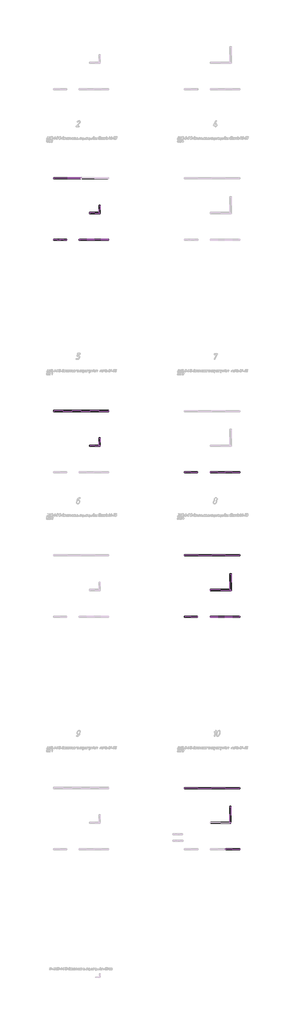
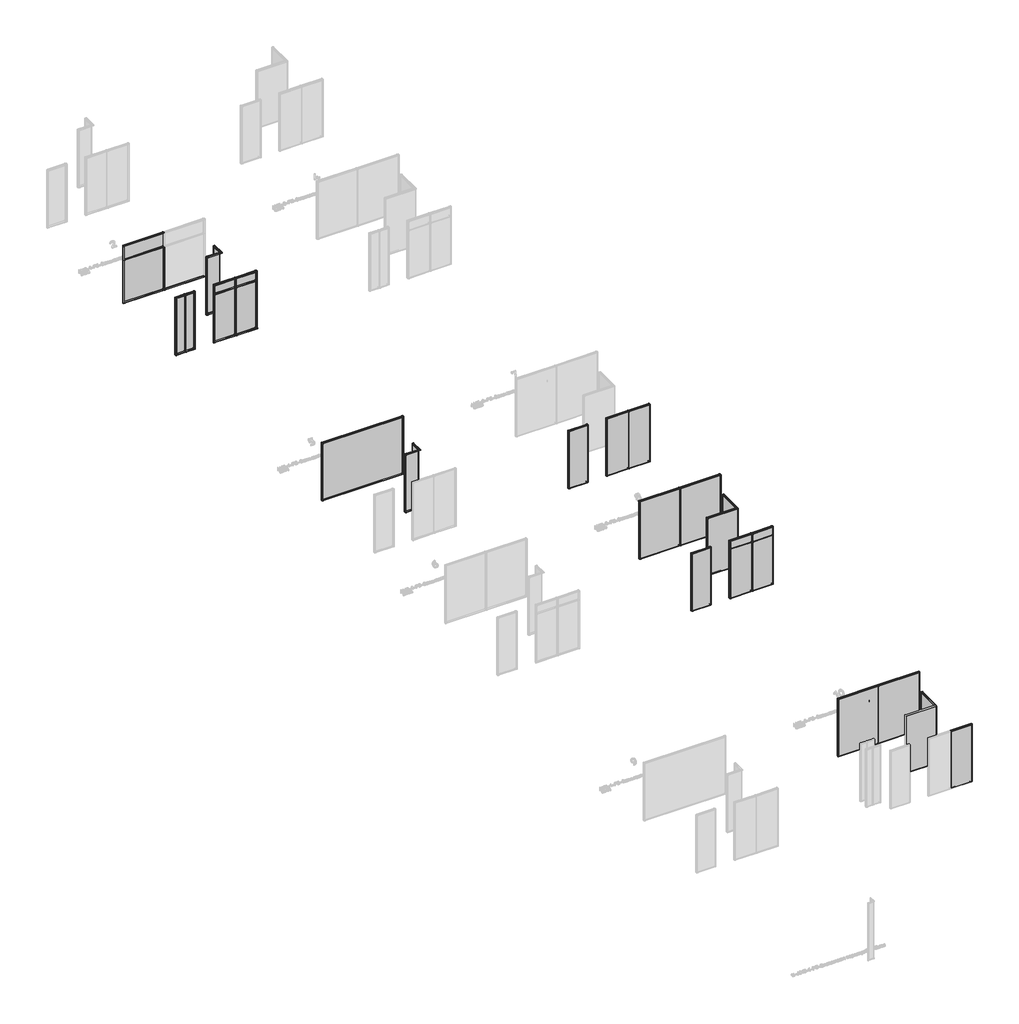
# One storey, part 2 of 22: 97 members, 30 plates.
"""IFC4 building model written with IfcOpenShell, lengths in millimetres."""

from ifc_helpers import new_model, si_unit, origin, place, context, project, spatial, transform, mapped, element, save
from components import member_679ae571, member_112bad6c, member_a0690aec, member_78b921d7, member_cfed3e5b, member_4a05bf8b, member_debc56be, member_fc8631e7, member_214070ad, member_10447d67, member_bc8d14ae, member_71ad35bd, member_cca2f080, member_7c3dce96, member_84f5351a, member_572960a0, member_3521b740, member_f42641c0, member_3baaf4cd, member_0a683327, member_89e9d058, member_d21278bc, member_0cd1de56, member_d9a8b494, member_191df413, member_43a0785c, member_1a34cda2, member_cfd8de3d, member_7b23a373, member_da78ab06, member_1d8b72b8, member_eaf66a81, member_6e2d20ba, member_2fa9917d, member_f6f6942f, member_1e112815, member_e6ef7e3b, member_a27bc3e2, member_4e2aeb8b, member_03ab2221, member_475a050b, member_5ca82919, member_f39f7cea, member_83f4ae74, member_e85f4ef0, member_36051e5c, member_028ab7fa, member_6ae3acd9, member_2d3e5994, member_c077e5c1, member_8e470bcc, member_59e4e7c9, member_af907c4f, member_0f264bdb, member_fc7df160, member_f0baebe7, member_93e2901d, member_6fa34456, member_74cfcd0e, member_9c11876c, member_e38ae89f, member_2893ac2d, member_b31118c8, member_b95fb32e, member_520df2a5, member_f5b8ed6c, member_4ba3030a, member_1ce3db48, member_eacce06f, member_09b85563, member_cacbceeb, member_a0eec1e8, member_eae1733a, member_2709d313, member_c30fd7d8, member_52638710, plate_24773b22, plate_5209fc4b, plate_b4f278bb, plate_426ea1b5, plate_f5c13d01, plate_5d2dc3b9, plate_4fcb0a8f, plate_0fa9f685, plate_47663f49, plate_f9840016, plate_38fda3b0, plate_7385b507, plate_6319510f, plate_275eea80, plate_57babfa3, plate_72be16de, plate_b4419c6d, plate_2100a19b, plate_72723f3e, plate_b37d0d85, plate_1a683a38, plate_d7c0e5d0, plate_e5ce113d, plate_1af2d558, plate_55673059, plate_c23ce983, plate_b7e87d28, plate_96b0c57f, plate_718afa10

model = new_model("IFC4")

# Units and contexts
model_context = context("Model", 3, world=origin())
ifc_project = project(units=[si_unit("LENGTHUNIT", "METRE", prefix="MILLI")], contexts=[model_context])

# Site, building, storey
site = spatial("IfcSite", under=ifc_project)
building = spatial("IfcBuilding", under=site)
storey = spatial("IfcBuildingStorey", under=building, Name="Уровень 1", Elevation=0.0)

# Members
placement = place(None, origin())
member_shape = member_679ae571(model_context)
element("IfcMember", 1, ObjectType="Прямоугольный импост : 1-AMG-1-Профиль 40Х75 Верх П", at=placement, inside=storey, context=model_context, shape_type="MappedRepresentation", body=[
    mapped(member_shape, transform((-32623.5895059, -14405.3753969, 0.0), x_axis=(0.0, 1.0, 0.0), y_axis=(1.0, 0.0, 0.0), z_axis=(0.0, 0.0, -1.0))),
])
member_2_shape = member_112bad6c(model_context)
element("IfcMember", 2, ObjectType="Прямоугольный импост : 1-AMG-1-Профиль 40Х75 Верх П", at=placement, inside=storey, context=model_context, shape_type="MappedRepresentation", body=[
    mapped(member_2_shape, transform((-33303.5895059, -14945.3753969, 0.0), x_axis=(-1.0, 0.0, 0.0), y_axis=(0.0, 1.0, 0.0), z_axis=(0.0, 0.0, -1.0))),
])
member_3_shape = member_a0690aec(model_context)
element("IfcMember", 3, ObjectType="Прямоугольный импост : 1-AMG-1-Профиль 40Х75 Верх П", at=placement, inside=storey, context=model_context, shape_type="MappedRepresentation", body=[
    mapped(member_3_shape, transform((-33262.4744198, -14945.3753969, 2800.0), x_axis=(0.0, 0.0, 1.0), y_axis=(0.0, 1.0, 0.0), z_axis=(-1.0, 0.0, 0.0))),
])
member_4_shape = member_78b921d7(model_context)
element("IfcMember", 4, ObjectType="Прямоугольный импост : 1-AMG-1-Профиль 40Х75 Верх П", at=placement, inside=storey, context=model_context, shape_type="MappedRepresentation", body=[
    mapped(member_4_shape, transform((-32623.5895059, -14446.4904831, 2800.0), x_axis=(0.0, 0.0, 1.0), y_axis=(1.0, 0.0, 0.0), z_axis=(0.0, 1.0, 0.0))),
])
member_5_shape = member_cfed3e5b(model_context)
element("IfcMember", 5, ObjectType="Прямоугольный импост : 1-AMG-1-Профиль 40Х75 Низ Л", at=placement, inside=storey, context=model_context, shape_type="MappedRepresentation", body=[
    mapped(member_5_shape, transform((-32623.5895059, -14945.3753969, 0.0), x_axis=(0.0, 0.0, -1.0), y_axis=(0.0, 1.0, 0.0), z_axis=(1.0, 0.0, 0.0))),
])
member_6_shape = member_4a05bf8b(model_context)
element("IfcMember", 6, ObjectType="Прямоугольный импост : 1-AMG-1-Профиль 40Х75 Низ Л", at=placement, inside=storey, context=model_context, shape_type="MappedRepresentation", body=[
    mapped(member_6_shape, transform((-32623.5895059, -14945.3753969, 0.0), x_axis=(0.0, 0.0, -1.0), y_axis=(1.0, 0.0, 0.0), z_axis=(0.0, -1.0, 0.0))),
])
member_7_shape = member_debc56be(model_context)
element("IfcMember", 7, ObjectType="Прямоугольный импост : 1-AMG-1-Профиль 40Х75 Низ Л", at=placement, inside=storey, context=model_context, shape_type="MappedRepresentation", body=[
    mapped(member_7_shape, transform((-32994.0352132, -16757.9669289, 0.0), x_axis=(0.0, 0.0, -1.0), y_axis=(0.0, -1.0, 0.0), z_axis=(-1.0, 0.0, 0.0))),
])
member_8_shape = member_fc8631e7(model_context)
element("IfcMember", 8, ObjectType="Прямоугольный импост : 1-AMG-1-Профиль 40Х75 Верх П", at=placement, inside=storey, context=model_context, shape_type="MappedRepresentation", body=[
    mapped(member_8_shape, transform((-34859.1896408, -16757.9669289, 41.1), x_axis=(1.0, 0.0, 0.0), y_axis=(0.0, -1.0, 0.0), z_axis=(0.0, 0.0, -1.0))),
])
member_9_shape = member_214070ad(model_context)
element("IfcMember", 9, ObjectType="Прямоугольный импост : 1-AMG-1-Профиль 40Х75 Верх П", at=placement, inside=storey, context=model_context, shape_type="MappedRepresentation", body=[
    mapped(member_9_shape, transform((-33884.1896408, -12595.8466032, 2800.0), x_axis=(0.0, 0.0, 1.0), y_axis=(0.0, -1.0, 0.0), z_axis=(1.0, 0.0, 0.0))),
])
member_10_shape = member_10447d67(model_context)
element("IfcMember", 10, ObjectType="Прямоугольный импост : 1-AMG-1-Профиль 40Х75 Низ Л", at=placement, inside=storey, context=model_context, shape_type="MappedRepresentation", body=[
    mapped(member_10_shape, transform((-33884.1896408, -12595.8466032, 0.0), x_axis=(0.0, 0.0, -1.0), y_axis=(0.0, -1.0, 0.0), z_axis=(-1.0, 0.0, 0.0))),
])
member_11_shape = member_bc8d14ae(model_context)
element("IfcMember", 11, ObjectType="Прямоугольный импост : 1-AMG-1-Профиль 40Х75 Низ Л", at=placement, inside=storey, context=model_context, shape_type="MappedRepresentation", body=[
    mapped(member_11_shape, transform((-35759.1896408, -12595.8466032, 2758.8849139), x_axis=(-1.0, 0.0, 0.0), y_axis=(0.0, -1.0, 0.0), z_axis=(0.0, 0.0, 1.0))),
])
member_12_shape = member_71ad35bd(model_context)
element("IfcMember", 12, ObjectType="Прямоугольный импост : 1-AMG-1-Профиль 40Х75 Низ Л", at=placement, inside=storey, context=model_context, shape_type="MappedRepresentation", body=[
    mapped(member_12_shape, transform((-35718.0896408, -12595.8466032, 0.0), x_axis=(0.0, 0.0, -1.0), y_axis=(0.0, -1.0, 0.0), z_axis=(-1.0, 0.0, 0.0))),
])
member_13_shape = member_cca2f080(model_context)
element("IfcMember", 13, ObjectType="Прямоугольный импост : 1-AMG-1-Профиль 40Х75 Низ Л", at=placement, inside=storey, context=model_context, shape_type="MappedRepresentation", body=[
    mapped(member_13_shape, transform((-35759.1896408, -12595.8466032, 2100.0), x_axis=(-1.0, 0.0, 0.0), y_axis=(0.0, -1.0, 0.0), z_axis=(0.0, 0.0, 1.0))),
])
member_14_shape = member_7c3dce96(model_context)
element("IfcMember", 14, ObjectType="Прямоугольный импост : 2-AMG-1-Профиль 26Х75 Средний", at=placement, inside=storey, context=model_context, shape_type="MappedRepresentation", body=[
    mapped(member_14_shape, transform((-33884.1896408, -12595.8466032, 41.1), x_axis=(1.0, 0.0, 0.0), y_axis=(0.0, -1.0, 0.0), z_axis=(0.0, 0.0, -1.0))),
])
member_15_shape = member_84f5351a(model_context)
element("IfcMember", 15, ObjectType="Прямоугольный импост : 2-AMG-1-Профиль 26Х75 Средний", at=placement, inside=storey, context=model_context, shape_type="MappedRepresentation", body=[
    mapped(member_15_shape, transform((-33884.1896408, -12595.8466032, 2100.0), x_axis=(0.0, 0.0, 1.0), y_axis=(0.0, -1.0, 0.0), z_axis=(1.0, 0.0, 0.0))),
])
member_16_shape = member_572960a0(model_context)
element("IfcMember", 16, ObjectType="Прямоугольный импост : 1-AMG-1-Профиль 40Х75 Низ Л", at=placement, inside=storey, context=model_context, shape_type="MappedRepresentation", body=[
    mapped(member_16_shape, transform((-35759.1896408, -16757.9669289, 2758.8849139), x_axis=(-1.0, 0.0, 0.0), y_axis=(0.0, -1.0, 0.0), z_axis=(0.0, 0.0, 1.0))),
])
member_17_shape = member_3521b740(model_context)
element("IfcMember", 17, ObjectType="Прямоугольный импост : 1-AMG-1-Профиль 40Х75 Низ Л", at=placement, inside=storey, context=model_context, shape_type="MappedRepresentation", body=[
    mapped(member_17_shape, transform((-33994.8831294, -16757.9669289, 0.0), x_axis=(0.0, 0.0, -1.0), y_axis=(0.0, -1.0, 0.0), z_axis=(-1.0, 0.0, 0.0))),
])
member_18_shape = member_f42641c0(model_context)
element("IfcMember", 18, ObjectType="Прямоугольный импост : 2-AMG-1-Профиль 26Х75 Средний", at=placement, inside=storey, context=model_context, shape_type="MappedRepresentation", body=[
    mapped(member_18_shape, transform((-35309.1896408, -16757.9669289, 41.1), x_axis=(1.0, 0.0, 0.0), y_axis=(0.0, -1.0, 0.0), z_axis=(0.0, 0.0, -1.0))),
])
member_19_shape = member_3baaf4cd(model_context)
element("IfcMember", 19, ObjectType="Прямоугольный импост : 1-AMG-1-Профиль 40Х75 Верх П", at=placement, inside=storey, context=model_context, shape_type="MappedRepresentation", body=[
    mapped(member_19_shape, transform((-32994.0352132, -16757.9669289, 2800.0), x_axis=(0.0, 0.0, 1.0), y_axis=(0.0, -1.0, 0.0), z_axis=(1.0, 0.0, 0.0))),
])
member_20_shape = member_0a683327(model_context)
element("IfcMember", 20, ObjectType="Прямоугольный импост : 1-AMG-1-Профиль 40Х75 Верх П", at=placement, inside=storey, context=model_context, shape_type="MappedRepresentation", body=[
    mapped(member_20_shape, transform((-34859.1896408, -16757.9669289, 2800.0), x_axis=(0.0, 0.0, 1.0), y_axis=(0.0, -1.0, 0.0), z_axis=(1.0, 0.0, 0.0))),
])
member_21_shape = member_89e9d058(model_context)
element("IfcMember", 21, ObjectType="Прямоугольный импост : 1-AMG-1-Профиль 40Х75 Низ Л", at=placement, inside=storey, context=model_context, shape_type="MappedRepresentation", body=[
    mapped(member_21_shape, transform((-35759.1896408, -16757.9669289, 0.0), x_axis=(0.0, 0.0, -1.0), y_axis=(0.0, -1.0, 0.0), z_axis=(-1.0, 0.0, 0.0))),
])
element("IfcMember", 22, ObjectType="Прямоугольный импост : 1-AMG-1-Профиль 40Х75 Верх П", at=placement, inside=storey, context=model_context, shape_type="MappedRepresentation", body=[
    mapped(member_20_shape, transform((-35309.1896408, -16757.9669289, 2800.0), x_axis=(0.0, 0.0, 1.0), y_axis=(0.0, -1.0, 0.0), z_axis=(1.0, 0.0, 0.0))),
])
element("IfcMember", 23, ObjectType="Прямоугольный импост : 1-AMG-1-Профиль 40Х75 Низ Л", at=placement, inside=storey, context=model_context, shape_type="MappedRepresentation", body=[
    mapped(member_21_shape, transform((-35309.1896408, -16757.9669289, 0.0), x_axis=(0.0, 0.0, -1.0), y_axis=(0.0, -1.0, 0.0), z_axis=(-1.0, 0.0, 0.0))),
])
member_22_shape = member_d21278bc(model_context)
element("IfcMember", 24, ObjectType="Прямоугольный импост : 2-AMG-1-Профиль 26Х75 Средний", at=placement, inside=storey, context=model_context, shape_type="MappedRepresentation", body=[
    mapped(member_22_shape, transform((-32994.0352132, -16757.9669289, 2340.0), x_axis=(0.0, 0.0, 1.0), y_axis=(0.0, -1.0, 0.0), z_axis=(1.0, 0.0, 0.0))),
])
member_23_shape = member_0cd1de56(model_context)
element("IfcMember", 25, ObjectType="Прямоугольный импост : 2-AMG-1-Профиль 26Х75 Средний", at=placement, inside=storey, context=model_context, shape_type="MappedRepresentation", body=[
    mapped(member_23_shape, transform((-32050.3047269, -16757.9669289, 2340.0), x_axis=(0.0, 0.0, 1.0), y_axis=(0.0, -1.0, 0.0), z_axis=(1.0, 0.0, 0.0))),
])
member_24_shape = member_d9a8b494(model_context)
element("IfcMember", 26, ObjectType="Прямоугольный импост : 1-AMG-1-Профиль 40Х75 Верх П", at=placement, inside=storey, context=model_context, shape_type="MappedRepresentation", body=[
    mapped(member_24_shape, transform((-32050.3047269, -16757.9669289, 2800.0), x_axis=(0.0, 0.0, 1.0), y_axis=(0.0, -1.0, 0.0), z_axis=(1.0, 0.0, 0.0))),
])
member_25_shape = member_191df413(model_context)
element("IfcMember", 27, ObjectType="Прямоугольный импост : 2-AMG-1-Профиль 26Х75 Средний", at=placement, inside=storey, context=model_context, shape_type="MappedRepresentation", body=[
    mapped(member_25_shape, transform((-33978.8807856, -16757.9669289, 41.1), x_axis=(1.0, 0.0, 0.0), y_axis=(0.0, -1.0, 0.0), z_axis=(0.0, 0.0, -1.0))),
])
element("IfcMember", 28, ObjectType="Прямоугольный импост : 2-AMG-1-Профиль 26Х75 Средний", at=placement, inside=storey, context=model_context, shape_type="MappedRepresentation", body=[
    mapped(member_25_shape, transform((-32994.0352132, -16757.9669289, 41.1), x_axis=(1.0, 0.0, 0.0), y_axis=(0.0, -1.0, 0.0), z_axis=(0.0, 0.0, -1.0))),
])
member_26_shape = member_43a0785c(model_context)
element("IfcMember", 29, ObjectType="Прямоугольный импост : 2-AMG-1-Профиль 26Х75 Средний", at=placement, inside=storey, context=model_context, shape_type="MappedRepresentation", body=[
    mapped(member_26_shape, transform((-33978.8807856, -16757.9669289, 2355.9976562), x_axis=(1.0, 0.0, 0.0), y_axis=(0.0, -1.0, 0.0), z_axis=(0.0, 0.0, -1.0))),
])
element("IfcMember", 30, ObjectType="Прямоугольный импост : 2-AMG-1-Профиль 26Х75 Средний", at=placement, inside=storey, context=model_context, shape_type="MappedRepresentation", body=[
    mapped(member_26_shape, transform((-32994.0352132, -16757.9669289, 2355.9976562), x_axis=(1.0, 0.0, 0.0), y_axis=(0.0, -1.0, 0.0), z_axis=(0.0, 0.0, -1.0))),
])
member_27_shape = member_1a34cda2(model_context)
element("IfcMember", 31, ObjectType="Прямоугольный импост : 1-AMG-1-Профиль 40Х75 Верх П", at=placement, inside=storey, context=model_context, shape_type="MappedRepresentation", body=[
    mapped(member_27_shape, transform((-32009.1896408, -16757.9669289, 41.1), x_axis=(1.0, 0.0, 0.0), y_axis=(0.0, -1.0, 0.0), z_axis=(0.0, 0.0, -1.0))),
])
member_28_shape = member_cfd8de3d(model_context)
element("IfcMember", 32, ObjectType="Прямоугольный импост : 1-AMG-1-Профиль 40Х75 Низ Л", at=placement, inside=storey, context=model_context, shape_type="MappedRepresentation", body=[
    mapped(member_28_shape, transform((-34009.1896408, -16757.9669289, 2800.0), x_axis=(-1.0, 0.0, 0.0), y_axis=(0.0, -1.0, 0.0), z_axis=(0.0, 0.0, 1.0))),
])
member_29_shape = member_7b23a373(model_context)
element("IfcMember", 33, ObjectType="Прямоугольный импост : 1-AMG-1-Профиль 40Х75 Верх П", at=placement, inside=storey, context=model_context, shape_type="MappedRepresentation", body=[
    mapped(member_29_shape, transform((-32009.1896408, -16757.9669289, 2340.0), x_axis=(1.0, 0.0, 0.0), y_axis=(0.0, -1.0, 0.0), z_axis=(0.0, 0.0, -1.0))),
])
member_30_shape = member_da78ab06(model_context)
element("IfcMember", 34, ObjectType="Прямоугольный импост : 1-AMG-1-Профиль 40Х75 Низ Л", at=placement, inside=storey, context=model_context, shape_type="MappedRepresentation", body=[
    mapped(member_30_shape, transform((-34009.1896408, -16757.9669289, 2340.0), x_axis=(-1.0, 0.0, 0.0), y_axis=(0.0, -1.0, 0.0), z_axis=(0.0, 0.0, 1.0))),
])
member_31_shape = member_1d8b72b8(model_context)
element("IfcMember", 35, ObjectType="Прямоугольный импост : 5-AMG-1-Профиль 26Х75 Верх П", at=placement, inside=storey, context=model_context, shape_type="MappedRepresentation", body=[
    mapped(member_31_shape, transform((-32623.5895059, -30232.3753969, 2800.0), x_axis=(0.0, 0.0, 1.0), y_axis=(1.0, 0.0, 0.0), z_axis=(0.0, 1.0, 0.0))),
])
member_32_shape = member_eaf66a81(model_context)
element("IfcMember", 36, ObjectType="Прямоугольный импост : 5-AMG-1-Профиль 26Х75 Низ Л", at=placement, inside=storey, context=model_context, shape_type="MappedRepresentation", body=[
    mapped(member_32_shape, transform((-32623.5895059, -30745.3753969, 0.0), x_axis=(0.0, 0.0, -1.0), y_axis=(1.0, 0.0, 0.0), z_axis=(0.0, -1.0, 0.0))),
])
member_33_shape = member_6e2d20ba(model_context)
element("IfcMember", 37, ObjectType="Прямоугольный импост : 5-AMG-1-Профиль 26Х75 Верх П", at=placement, inside=storey, context=model_context, shape_type="MappedRepresentation", body=[
    mapped(member_33_shape, transform((-32623.5895059, -30205.3753969, 0.0), x_axis=(0.0, 1.0, 0.0), y_axis=(1.0, 0.0, 0.0), z_axis=(0.0, 0.0, -1.0))),
])
element("IfcMember", 38, ObjectType="Прямоугольный импост : 5-AMG-1-Профиль 26Х75 Верх П", at=placement, inside=storey, context=model_context, shape_type="MappedRepresentation", body=[
    mapped(member_33_shape, transform((-32009.1896408, -28392.7871042, 0.0), x_axis=(1.0, 0.0, 0.0), y_axis=(0.0, -1.0, 0.0), z_axis=(0.0, 0.0, -1.0))),
])
member_34_shape = member_2fa9917d(model_context)
element("IfcMember", 39, ObjectType="Прямоугольный импост : 5-AMG-1-Профиль 26Х75 Низ Л", at=placement, inside=storey, context=model_context, shape_type="MappedRepresentation", body=[
    mapped(member_34_shape, transform((-35759.1896408, -28392.7871042, 2800.0), x_axis=(-1.0, 0.0, 0.0), y_axis=(0.0, -1.0, 0.0), z_axis=(0.0, 0.0, 1.0))),
])
member_35_shape = member_f6f6942f(model_context)
element("IfcMember", 40, ObjectType="Прямоугольный импост : 5-AMG-1-Профиль 26Х75 Верх П", at=placement, inside=storey, context=model_context, shape_type="MappedRepresentation", body=[
    mapped(member_35_shape, transform((-33276.5895059, -30745.3753969, 2800.0), x_axis=(0.0, 0.0, 1.0), y_axis=(0.0, 1.0, 0.0), z_axis=(-1.0, 0.0, 0.0))),
])
member_36_shape = member_1e112815(model_context)
element("IfcMember", 41, ObjectType="Прямоугольный импост : 5-AMG-1-Профиль 26Х75 Низ Л", at=placement, inside=storey, context=model_context, shape_type="MappedRepresentation", body=[
    mapped(member_36_shape, transform((-32623.5895059, -30745.3753969, 0.0), x_axis=(0.0, 0.0, -1.0), y_axis=(0.0, 1.0, 0.0), z_axis=(1.0, 0.0, 0.0))),
])
member_37_shape = member_e6ef7e3b(model_context)
element("IfcMember", 42, ObjectType="Прямоугольный импост : 5-AMG-1-Профиль 26Х75 Верх П", at=placement, inside=storey, context=model_context, shape_type="MappedRepresentation", body=[
    mapped(member_37_shape, transform((-33303.5895059, -30745.3753969, 0.0), x_axis=(-1.0, 0.0, 0.0), y_axis=(0.0, 1.0, 0.0), z_axis=(0.0, 0.0, -1.0))),
])
member_38_shape = member_a27bc3e2(model_context)
element("IfcMember", 43, ObjectType="Прямоугольный импост : 5-AMG-1-Профиль 26Х75 Верх П", at=placement, inside=storey, context=model_context, shape_type="MappedRepresentation", body=[
    mapped(member_38_shape, transform((-32036.1896408, -28392.7871042, 2800.0), x_axis=(0.0, 0.0, 1.0), y_axis=(0.0, -1.0, 0.0), z_axis=(1.0, 0.0, 0.0))),
])
member_39_shape = member_4e2aeb8b(model_context)
element("IfcMember", 44, ObjectType="Прямоугольный импост : 5-AMG-1-Профиль 26Х75 Низ Л", at=placement, inside=storey, context=model_context, shape_type="MappedRepresentation", body=[
    mapped(member_39_shape, transform((-35732.1896408, -28392.7871042, 0.0), x_axis=(0.0, 0.0, -1.0), y_axis=(0.0, -1.0, 0.0), z_axis=(-1.0, 0.0, 0.0))),
])
member_40_shape = member_03ab2221(model_context)
element("IfcMember", 45, ObjectType="Прямоугольный импост : 7-AMG-2-Профиль 26Х75 Верх П", at=placement, inside=storey, context=model_context, shape_type="MappedRepresentation", body=[
    mapped(member_40_shape, transform((-25959.1896408, -32557.9669289, 0.0), x_axis=(1.0, 0.0, 0.0), y_axis=(0.0, -1.0, 0.0), z_axis=(0.0, 0.0, -1.0))),
])
element("IfcMember", 46, ObjectType="Прямоугольный импост : 7-AMG-2-Профиль 26Х75 Верх П", at=placement, inside=storey, context=model_context, shape_type="MappedRepresentation", body=[
    mapped(member_40_shape, transform((-25959.1896408, -42357.9669289, 0.0), x_axis=(1.0, 0.0, 0.0), y_axis=(0.0, -1.0, 0.0), z_axis=(0.0, 0.0, -1.0))),
])
element("IfcMember", 47, ObjectType="Прямоугольный импост : 7-AMG-2-Профиль 26Х75 Верх П", at=placement, inside=storey, context=model_context, shape_type="MappedRepresentation", body=[
    mapped(member_40_shape, transform((-23723.5895059, -39445.3753969, 0.0), x_axis=(0.0, 1.0, 0.0), y_axis=(1.0, 0.0, 0.0), z_axis=(0.0, 0.0, -1.0))),
])
member_41_shape = member_475a050b(model_context)
element("IfcMember", 48, ObjectType="Прямоугольный импост : 7-AMG-2-Профиль 26Х75 Верх П", at=placement, inside=storey, context=model_context, shape_type="MappedRepresentation", body=[
    mapped(member_41_shape, transform((-23723.5895059, -39472.3753969, 2800.0), x_axis=(0.0, 0.0, 1.0), y_axis=(1.0, 0.0, 0.0), z_axis=(0.0, 1.0, 0.0))),
])
member_42_shape = member_5ca82919(model_context)
element("IfcMember", 49, ObjectType="Прямоугольный импост : 7-AMG-2-Профиль 26Х75 Верх П", at=placement, inside=storey, context=model_context, shape_type="MappedRepresentation", body=[
    mapped(member_42_shape, transform((-25109.1896408, -40545.3753969, 0.0), x_axis=(-1.0, 0.0, 0.0), y_axis=(0.0, 1.0, 0.0), z_axis=(0.0, 0.0, -1.0))),
])
member_43_shape = member_f39f7cea(model_context)
element("IfcMember", 50, ObjectType="Прямоугольный импост : 7-AMG-2-Профиль 26Х75 Верх П", at=placement, inside=storey, context=model_context, shape_type="MappedRepresentation", body=[
    mapped(member_43_shape, transform((-23109.1896408, -32557.9669289, 2800.0), x_axis=(0.0, 0.0, 1.0), y_axis=(0.0, -1.0, 0.0), z_axis=(1.0, 0.0, 0.0))),
])
member_44_shape = member_83f4ae74(model_context)
element("IfcMember", 51, ObjectType="Прямоугольный импост : 7-AMG-2-Профиль 26Х75 Верх П", at=placement, inside=storey, context=model_context, shape_type="MappedRepresentation", body=[
    mapped(member_44_shape, transform((-24083.6907619, -32557.9669289, 2800.0), x_axis=(0.0, 0.0, 1.0), y_axis=(0.0, -1.0, 0.0), z_axis=(1.0, 0.0, 0.0))),
])
element("IfcMember", 52, ObjectType="Прямоугольный импост : 7-AMG-2-Профиль 26Х75 Верх П", at=placement, inside=storey, context=model_context, shape_type="MappedRepresentation", body=[
    mapped(member_44_shape, transform((-24083.6907619, -42357.9669289, 2800.0), x_axis=(0.0, 0.0, 1.0), y_axis=(0.0, -1.0, 0.0), z_axis=(1.0, 0.0, 0.0))),
])
member_45_shape = member_e85f4ef0(model_context)
element("IfcMember", 53, ObjectType="Прямоугольный импост : 7-AMG-2-Профиль 26Х75 Верх П", at=placement, inside=storey, context=model_context, shape_type="MappedRepresentation", body=[
    mapped(member_45_shape, transform((-25082.1896408, -40545.3753969, 2800.0), x_axis=(0.0, 0.0, 1.0), y_axis=(0.0, 1.0, 0.0), z_axis=(-1.0, 0.0, 0.0))),
])
member_46_shape = member_36051e5c(model_context)
element("IfcMember", 54, ObjectType="Прямоугольный импост : 7-AMG-2-Профиль 26Х75 Верх П", at=placement, inside=storey, context=model_context, shape_type="MappedRepresentation", body=[
    mapped(member_46_shape, transform((-23136.1896408, -38195.8466032, 2800.0), x_axis=(0.0, 0.0, 1.0), y_axis=(0.0, -1.0, 0.0), z_axis=(1.0, 0.0, 0.0))),
])
member_47_shape = member_028ab7fa(model_context)
element("IfcMember", 55, ObjectType="Прямоугольный импост : 7-AMG-2-Профиль 26Х75 Верх П", at=placement, inside=storey, context=model_context, shape_type="MappedRepresentation", body=[
    mapped(member_47_shape, transform((-24984.1896408, -38195.8466032, 2800.0), x_axis=(0.0, 0.0, 1.0), y_axis=(0.0, -1.0, 0.0), z_axis=(1.0, 0.0, 0.0))),
])
member_48_shape = member_6ae3acd9(model_context)
element("IfcMember", 56, ObjectType="Прямоугольный импост : 4-AMG-2-Профиль 26Х75 Средний", at=placement, inside=storey, context=model_context, shape_type="MappedRepresentation", body=[
    mapped(member_48_shape, transform((-23136.1896408, -42357.9669289, 2400.0), x_axis=(0.0, 0.0, 1.0), y_axis=(0.0, -1.0, 0.0), z_axis=(1.0, 0.0, 0.0))),
])
member_49_shape = member_2d3e5994(model_context)
element("IfcMember", 57, ObjectType="Прямоугольный импост : 4-AMG-2-Профиль 26Х75 Средний", at=placement, inside=storey, context=model_context, shape_type="MappedRepresentation", body=[
    mapped(member_49_shape, transform((-24083.6907619, -42357.9669289, 2416.0376562), x_axis=(1.0, 0.0, 0.0), y_axis=(0.0, -1.0, 0.0), z_axis=(0.0, 0.0, -1.0))),
])
member_50_shape = member_c077e5c1(model_context)
element("IfcMember", 58, ObjectType="Прямоугольный импост : 7-AMG-2-Профиль 26Х75 Верх П", at=placement, inside=storey, context=model_context, shape_type="MappedRepresentation", body=[
    mapped(member_50_shape, transform((-23136.1896408, -42357.9669289, 2800.0), x_axis=(0.0, 0.0, 1.0), y_axis=(0.0, -1.0, 0.0), z_axis=(1.0, 0.0, 0.0))),
])
member_51_shape = member_8e470bcc(model_context)
element("IfcMember", 59, ObjectType="Прямоугольный импост : 7-AMG-2-Профиль 26Х75 Верх П", at=placement, inside=storey, context=model_context, shape_type="MappedRepresentation", body=[
    mapped(member_51_shape, transform((-23109.1896408, -42357.9669289, 2400.0), x_axis=(1.0, 0.0, 0.0), y_axis=(0.0, -1.0, 0.0), z_axis=(0.0, 0.0, -1.0))),
])
element("IfcMember", 60, ObjectType="Прямоугольный импост : 7-AMG-2-Профиль 26Х75 Низ Л", at=placement, inside=storey, context=model_context, shape_type="MappedRepresentation", body=[
    mapped(member_40_shape, transform((-26859.1896408, -32557.9669289, 2800.0), x_axis=(-1.0, 0.0, 0.0), y_axis=(0.0, -1.0, 0.0), z_axis=(0.0, 0.0, 1.0))),
])
element("IfcMember", 61, ObjectType="Прямоугольный импост : 7-AMG-2-Профиль 26Х75 Низ Л", at=placement, inside=storey, context=model_context, shape_type="MappedRepresentation", body=[
    mapped(member_40_shape, transform((-26859.1896408, -42357.9669289, 2800.0), x_axis=(-1.0, 0.0, 0.0), y_axis=(0.0, -1.0, 0.0), z_axis=(0.0, 0.0, 1.0))),
])
member_52_shape = member_59e4e7c9(model_context)
element("IfcMember", 62, ObjectType="Прямоугольный импост : 7-AMG-2-Профиль 26Х75 Низ Л", at=placement, inside=storey, context=model_context, shape_type="MappedRepresentation", body=[
    mapped(member_52_shape, transform((-23723.5895059, -40545.3753969, 0.0), x_axis=(0.0, 0.0, -1.0), y_axis=(0.0, 1.0, 0.0), z_axis=(1.0, 0.0, 0.0))),
])
member_53_shape = member_af907c4f(model_context)
element("IfcMember", 63, ObjectType="Прямоугольный импост : 7-AMG-2-Профиль 26Х75 Низ Л", at=placement, inside=storey, context=model_context, shape_type="MappedRepresentation", body=[
    mapped(member_53_shape, transform((-23723.5895059, -40545.3753969, 0.0), x_axis=(0.0, 0.0, -1.0), y_axis=(1.0, 0.0, 0.0), z_axis=(0.0, -1.0, 0.0))),
])
element("IfcMember", 64, ObjectType="Прямоугольный импост : 7-AMG-2-Профиль 26Х75 Низ Л", at=placement, inside=storey, context=model_context, shape_type="MappedRepresentation", body=[
    mapped(member_44_shape, transform((-25109.1896408, -32557.9669289, 0.0), x_axis=(0.0, 0.0, -1.0), y_axis=(0.0, -1.0, 0.0), z_axis=(-1.0, 0.0, 0.0))),
])
element("IfcMember", 65, ObjectType="Прямоугольный импост : 7-AMG-2-Профиль 26Х75 Низ Л", at=placement, inside=storey, context=model_context, shape_type="MappedRepresentation", body=[
    mapped(member_43_shape, transform((-24083.6907619, -32557.9669289, 0.0), x_axis=(0.0, 0.0, -1.0), y_axis=(0.0, -1.0, 0.0), z_axis=(-1.0, 0.0, 0.0))),
])
element("IfcMember", 66, ObjectType="Прямоугольный импост : 7-AMG-2-Профиль 26Х75 Низ Л", at=placement, inside=storey, context=model_context, shape_type="MappedRepresentation", body=[
    mapped(member_43_shape, transform((-24083.6907619, -42357.9669289, 0.0), x_axis=(0.0, 0.0, -1.0), y_axis=(0.0, -1.0, 0.0), z_axis=(-1.0, 0.0, 0.0))),
])
member_54_shape = member_0f264bdb(model_context)
element("IfcMember", 67, ObjectType="Прямоугольный импост : 7-AMG-2-Профиль 26Х75 Низ Л", at=placement, inside=storey, context=model_context, shape_type="MappedRepresentation", body=[
    mapped(member_54_shape, transform((-26859.1896408, -38195.8466032, 2773.0), x_axis=(-1.0, 0.0, 0.0), y_axis=(0.0, -1.0, 0.0), z_axis=(0.0, 0.0, 1.0))),
])
element("IfcMember", 68, ObjectType="Прямоугольный импост : 7-AMG-2-Профиль 26Х75 Низ Л", at=placement, inside=storey, context=model_context, shape_type="MappedRepresentation", body=[
    mapped(member_47_shape, transform((-24984.1896408, -38195.8466032, 0.0), x_axis=(0.0, 0.0, -1.0), y_axis=(0.0, -1.0, 0.0), z_axis=(-1.0, 0.0, 0.0))),
])
member_55_shape = member_fc7df160(model_context)
element("IfcMember", 69, ObjectType="Прямоугольный импост : 7-AMG-2-Профиль 26Х75 Верх П", at=placement, inside=storey, context=model_context, shape_type="MappedRepresentation", body=[
    mapped(member_55_shape, transform((-25986.1896408, -32557.9669289, 2800.0), x_axis=(0.0, 0.0, 1.0), y_axis=(0.0, -1.0, 0.0), z_axis=(1.0, 0.0, 0.0))),
])
element("IfcMember", 70, ObjectType="Прямоугольный импост : 7-AMG-2-Профиль 26Х75 Верх П", at=placement, inside=storey, context=model_context, shape_type="MappedRepresentation", body=[
    mapped(member_55_shape, transform((-25986.1896408, -42357.9669289, 2800.0), x_axis=(0.0, 0.0, 1.0), y_axis=(0.0, -1.0, 0.0), z_axis=(1.0, 0.0, 0.0))),
])
element("IfcMember", 71, ObjectType="Прямоугольный импост : 7-AMG-2-Профиль 26Х75 Низ Л", at=placement, inside=storey, context=model_context, shape_type="MappedRepresentation", body=[
    mapped(member_55_shape, transform((-26832.1896408, -32557.9669289, 0.0), x_axis=(0.0, 0.0, -1.0), y_axis=(0.0, -1.0, 0.0), z_axis=(-1.0, 0.0, 0.0))),
])
element("IfcMember", 72, ObjectType="Прямоугольный импост : 7-AMG-2-Профиль 26Х75 Низ Л", at=placement, inside=storey, context=model_context, shape_type="MappedRepresentation", body=[
    mapped(member_55_shape, transform((-26832.1896408, -42357.9669289, 0.0), x_axis=(0.0, 0.0, -1.0), y_axis=(0.0, -1.0, 0.0), z_axis=(-1.0, 0.0, 0.0))),
])
member_56_shape = member_f0baebe7(model_context)
element("IfcMember", 73, ObjectType="Прямоугольный импост : 3-AMG-2-Профиль (скотч 3М) 1 средний", at=placement, inside=storey, context=model_context, shape_type="MappedRepresentation", body=[
    mapped(member_56_shape, transform((-24083.6907619, -32557.9669289, 27.0), x_axis=(1.0, 0.0, 0.0), y_axis=(0.0, -1.0, 0.0), z_axis=(0.0, 0.0, -1.0))),
])
member_57_shape = member_93e2901d(model_context)
element("IfcMember", 74, ObjectType="Прямоугольный импост : 7-AMG-2-Профиль 26Х75 Верх П", at=placement, inside=storey, context=model_context, shape_type="MappedRepresentation", body=[
    mapped(member_57_shape, transform((-23109.1896408, -32557.9669289, 27.0), x_axis=(1.0, 0.0, 0.0), y_axis=(0.0, -1.0, 0.0), z_axis=(0.0, 0.0, -1.0))),
])
element("IfcMember", 75, ObjectType="Прямоугольный импост : 7-AMG-2-Профиль 26Х75 Низ Л", at=placement, inside=storey, context=model_context, shape_type="MappedRepresentation", body=[
    mapped(member_57_shape, transform((-25109.1896408, -32557.9669289, 2773.0), x_axis=(-1.0, 0.0, 0.0), y_axis=(0.0, -1.0, 0.0), z_axis=(0.0, 0.0, 1.0))),
])
element("IfcMember", 76, ObjectType="Прямоугольный импост : 7-AMG-2-Профиль 26Х75 Верх П", at=placement, inside=storey, context=model_context, shape_type="MappedRepresentation", body=[
    mapped(member_54_shape, transform((-23109.1896408, -38195.8466032, 27.0), x_axis=(1.0, 0.0, 0.0), y_axis=(0.0, -1.0, 0.0), z_axis=(0.0, 0.0, -1.0))),
])
member_58_shape = member_6fa34456(model_context)
element("IfcMember", 77, ObjectType="Прямоугольный импост : 4-AMG-2-Профиль 26Х75 Средний", at=placement, inside=storey, context=model_context, shape_type="MappedRepresentation", body=[
    mapped(member_58_shape, transform((-24083.6907619, -42357.9669289, 27.0), x_axis=(1.0, 0.0, 0.0), y_axis=(0.0, -1.0, 0.0), z_axis=(0.0, 0.0, -1.0))),
])
member_59_shape = member_74cfcd0e(model_context)
element("IfcMember", 78, ObjectType="Прямоугольный импост : 7-AMG-2-Профиль 26Х75 Верх П", at=placement, inside=storey, context=model_context, shape_type="MappedRepresentation", body=[
    mapped(member_59_shape, transform((-23109.1896408, -42357.9669289, 27.0), x_axis=(1.0, 0.0, 0.0), y_axis=(0.0, -1.0, 0.0), z_axis=(0.0, 0.0, -1.0))),
])
member_60_shape = member_9c11876c(model_context)
element("IfcMember", 79, ObjectType="Прямоугольный импост : 4-AMG-2-Профиль 26Х75 Средний", at=placement, inside=storey, context=model_context, shape_type="MappedRepresentation", body=[
    mapped(member_60_shape, transform((-24984.1896408, -38195.8466032, 27.0), x_axis=(1.0, 0.0, 0.0), y_axis=(0.0, -1.0, 0.0), z_axis=(0.0, 0.0, -1.0))),
])
member_61_shape = member_e38ae89f(model_context)
element("IfcMember", 80, ObjectType="Прямоугольный импост : 7-AMG-2-Профиль 26Х75 Низ Л", at=placement, inside=storey, context=model_context, shape_type="MappedRepresentation", body=[
    mapped(member_61_shape, transform((-25082.1896408, -42357.9669289, 0.0), x_axis=(0.0, 0.0, -1.0), y_axis=(0.0, -1.0, 0.0), z_axis=(-1.0, 0.0, 0.0))),
])
member_62_shape = member_2893ac2d(model_context)
element("IfcMember", 81, ObjectType="Прямоугольный импост : 4-AMG-2-Профиль 26Х75 Средний", at=placement, inside=storey, context=model_context, shape_type="MappedRepresentation", body=[
    mapped(member_62_shape, transform((-24083.6907619, -42357.9669289, 2400.0), x_axis=(0.0, 0.0, 1.0), y_axis=(0.0, -1.0, 0.0), z_axis=(1.0, 0.0, 0.0))),
])
member_63_shape = member_b31118c8(model_context)
element("IfcMember", 82, ObjectType="Прямоугольный импост : 7-AMG-2-Профиль 26Х75 Низ Л", at=placement, inside=storey, context=model_context, shape_type="MappedRepresentation", body=[
    mapped(member_63_shape, transform((-25109.1896408, -42357.9669289, 2773.0), x_axis=(-1.0, 0.0, 0.0), y_axis=(0.0, -1.0, 0.0), z_axis=(0.0, 0.0, 1.0))),
])
element("IfcMember", 83, ObjectType="Прямоугольный импост : 7-AMG-2-Профиль 26Х75 Низ Л", at=placement, inside=storey, context=model_context, shape_type="MappedRepresentation", body=[
    mapped(member_46_shape, transform((-26832.1896408, -38195.8466032, 0.0), x_axis=(0.0, 0.0, -1.0), y_axis=(0.0, -1.0, 0.0), z_axis=(-1.0, 0.0, 0.0))),
])
member_64_shape = member_b95fb32e(model_context)
element("IfcMember", 84, ObjectType="Прямоугольный импост : 7-AMG-2-Профиль 26Х75 Низ Л", at=placement, inside=storey, context=model_context, shape_type="MappedRepresentation", body=[
    mapped(member_64_shape, transform((-25109.1896408, -42357.9669289, 2400.0), x_axis=(-1.0, 0.0, 0.0), y_axis=(0.0, -1.0, 0.0), z_axis=(0.0, 0.0, 1.0))),
])
member_65_shape = member_520df2a5(model_context)
element("IfcMember", 85, ObjectType="Прямоугольный импост : 10-AMG-2-Профиль 26Х73 Верх П", at=placement, inside=storey, context=model_context, shape_type="MappedRepresentation", body=[
    mapped(member_65_shape, transform((-23723.5895059, -55245.3753969, 0.0), x_axis=(0.0, 1.0, 0.0), y_axis=(1.0, 0.0, 0.0), z_axis=(0.0, 0.0, -1.0))),
])
member_66_shape = member_f5b8ed6c(model_context)
element("IfcMember", 86, ObjectType="Прямоугольный импост : 10-AMG-2-Профиль 26Х73 Верх П", at=placement, inside=storey, context=model_context, shape_type="MappedRepresentation", body=[
    mapped(member_66_shape, transform((-23723.5895059, -55271.3753969, 2800.0), x_axis=(0.0, 0.0, 1.0), y_axis=(1.0, 0.0, 0.0), z_axis=(0.0, 1.0, 0.0))),
])
member_67_shape = member_4ba3030a(model_context)
element("IfcMember", 87, ObjectType="Прямоугольный импост : 10-AMG-2-Профиль 26Х73 Низ Л", at=placement, inside=storey, context=model_context, shape_type="MappedRepresentation", body=[
    mapped(member_67_shape, transform((-23723.5895059, -56345.3753969, 0.0), x_axis=(0.0, 0.0, -1.0), y_axis=(1.0, 0.0, 0.0), z_axis=(0.0, -1.0, 0.0))),
])
member_68_shape = member_1ce3db48(model_context)
element("IfcMember", 88, ObjectType="Прямоугольный импост : 10-AMG-2-Профиль 26Х73 Верх П", at=placement, inside=storey, context=model_context, shape_type="MappedRepresentation", body=[
    mapped(member_68_shape, transform((-23109.1896408, -58157.9669289, 2800.0), x_axis=(0.0, 0.0, 1.0), y_axis=(0.0, -1.0, 0.0), z_axis=(1.0, 0.0, 0.0))),
])
member_69_shape = member_eacce06f(model_context)
element("IfcMember", 89, ObjectType="Прямоугольный импост : 10-AMG-2-Профиль 26Х73 Верх П", at=placement, inside=storey, context=model_context, shape_type="MappedRepresentation", body=[
    mapped(member_69_shape, transform((-23135.1896408, -53995.8466032, 2800.0), x_axis=(0.0, 0.0, 1.0), y_axis=(0.0, -1.0, 0.0), z_axis=(1.0, 0.0, 0.0))),
])
member_70_shape = member_09b85563(model_context)
element("IfcMember", 90, ObjectType="Прямоугольный импост : 10-AMG-2-Профиль 26Х73 Верх П", at=placement, inside=storey, context=model_context, shape_type="MappedRepresentation", body=[
    mapped(member_70_shape, transform((-25013.3644961, -53995.8466032, 2800.0), x_axis=(0.0, 0.0, 1.0), y_axis=(0.0, -1.0, 0.0), z_axis=(1.0, 0.0, 0.0))),
])
member_71_shape = member_cacbceeb(model_context)
element("IfcMember", 91, ObjectType="Прямоугольный импост : 10-AMG-2-Профиль 26Х73 Низ Л", at=placement, inside=storey, context=model_context, shape_type="MappedRepresentation", body=[
    mapped(member_71_shape, transform((-25013.3644961, -53995.8466032, 0.0), x_axis=(0.0, 0.0, -1.0), y_axis=(0.0, -1.0, 0.0), z_axis=(-1.0, 0.0, 0.0))),
])
member_72_shape = member_a0eec1e8(model_context)
element("IfcMember", 92, ObjectType="Прямоугольный импост : 10-AMG-2-Профиль 26Х73 Низ Л", at=placement, inside=storey, context=model_context, shape_type="MappedRepresentation", body=[
    mapped(member_72_shape, transform((-26859.1896408, -53995.8466032, 2774.0), x_axis=(-1.0, 0.0, 0.0), y_axis=(0.0, -1.0, 0.0), z_axis=(0.0, 0.0, 1.0))),
])
member_73_shape = member_eae1733a(model_context)
element("IfcMember", 93, ObjectType="Прямоугольный импост : 10-AMG-2-Профиль 26Х73 Низ Л", at=placement, inside=storey, context=model_context, shape_type="MappedRepresentation", body=[
    mapped(member_73_shape, transform((-23723.5895059, -56345.3753969, 0.0), x_axis=(0.0, 0.0, -1.0), y_axis=(0.0, 1.0, 0.0), z_axis=(1.0, 0.0, 0.0))),
])
member_74_shape = member_2709d313(model_context)
element("IfcMember", 94, ObjectType="Прямоугольный импост : 3-AMG-2-Профиль (скотч 3М) 1 средний", at=placement, inside=storey, context=model_context, shape_type="MappedRepresentation", body=[
    mapped(member_74_shape, transform((-25013.3644961, -53995.8466032, 26.0), x_axis=(1.0, 0.0, 0.0), y_axis=(0.0, -1.0, 0.0), z_axis=(0.0, 0.0, -1.0))),
])
member_75_shape = member_c30fd7d8(model_context)
element("IfcMember", 95, ObjectType="Прямоугольный импост : 10-AMG-2-Профиль 26Х73 Верх П", at=placement, inside=storey, context=model_context, shape_type="MappedRepresentation", body=[
    mapped(member_75_shape, transform((-23109.1896408, -58157.9669289, 26.0), x_axis=(1.0, 0.0, 0.0), y_axis=(0.0, -1.0, 0.0), z_axis=(0.0, 0.0, -1.0))),
])
member_76_shape = member_52638710(model_context)
element("IfcMember", 96, ObjectType="Прямоугольный импост : 10-AMG-2-Профиль 26Х73 Низ Л", at=placement, inside=storey, context=model_context, shape_type="MappedRepresentation", body=[
    mapped(member_76_shape, transform((-26833.1896408, -53995.8466032, 0.0), x_axis=(0.0, 0.0, -1.0), y_axis=(0.0, -1.0, 0.0), z_axis=(-1.0, 0.0, 0.0))),
])
element("IfcMember", 97, ObjectType="Прямоугольный импост : 10-AMG-2-Профиль 26Х73 Верх П", at=placement, inside=storey, context=model_context, shape_type="MappedRepresentation", body=[
    mapped(member_72_shape, transform((-23109.1896408, -53995.8466032, 26.0), x_axis=(1.0, 0.0, 0.0), y_axis=(0.0, -1.0, 0.0), z_axis=(0.0, 0.0, -1.0))),
])

# Plates
plate_shape = plate_24773b22(model_context)
element("IfcPlate", 98, ObjectType="1-AMG-1-Панель одинарный витраж 8, 10 : Смещение 32 Толщина 8mm", at=placement, inside=storey, context=model_context, shape_type="MappedRepresentation", body=[
    mapped(plate_shape, transform((-32623.5895059, -14695.9253969, 41.1), x_axis=(0.0, 1.0, 0.0), y_axis=(-1.0, 0.0, 0.0), z_axis=(0.0, 0.0, 1.0))),
])
plate_2_shape = plate_5209fc4b(model_context)
element("IfcPlate", 99, ObjectType="1-AMG-1-Панель одинарный витраж 8, 10 : Смещение 32 Толщина 8mm", at=placement, inside=storey, context=model_context, shape_type="MappedRepresentation", body=[
    mapped(plate_2_shape, transform((-34809.1408127, -12595.8466032, 2115.9976562), x_axis=(1.0, 0.0, 0.0), y_axis=(0.0, 1.0, 0.0), z_axis=(0.0, 0.0, 1.0))),
])
plate_3_shape = plate_b4f278bb(model_context)
element("IfcPlate", 100, ObjectType="1-AMG-1-Панель одинарный витраж 8, 10 : Смещение 32 Толщина 8mm", at=placement, inside=storey, context=model_context, shape_type="MappedRepresentation", body=[
    mapped(plate_3_shape, transform((-34809.1408127, -12595.8466032, 41.1), x_axis=(1.0, 0.0, 0.0), y_axis=(0.0, 1.0, 0.0), z_axis=(0.0, 0.0, 1.0))),
])
plate_4_shape = plate_426ea1b5(model_context)
element("IfcPlate", 101, ObjectType="1-AMG-1-Панель одинарный витраж 8, 10 : Смещение 32 Толщина 8mm", at=placement, inside=storey, context=model_context, shape_type="MappedRepresentation", body=[
    mapped(plate_4_shape, transform((-35521.6408127, -16757.9669289, 41.1), x_axis=(1.0, 0.0, 0.0), y_axis=(0.0, 1.0, 0.0), z_axis=(0.0, 0.0, 1.0))),
])
plate_5_shape = plate_f5c13d01(model_context)
element("IfcPlate", 102, ObjectType="1-AMG-1-Панель одинарный витраж 8, 10 : Смещение 32 Толщина 8mm", at=placement, inside=storey, context=model_context, shape_type="MappedRepresentation", body=[
    mapped(plate_5_shape, transform((-35096.7408127, -16757.9669289, 41.1), x_axis=(1.0, 0.0, 0.0), y_axis=(0.0, 1.0, 0.0), z_axis=(0.0, 0.0, 1.0))),
])
plate_6_shape = plate_5d2dc3b9(model_context)
element("IfcPlate", 103, ObjectType="1-AMG-1-Панель одинарный витраж 8, 10 : Смещение 32 Толщина 8mm", at=placement, inside=storey, context=model_context, shape_type="MappedRepresentation", body=[
    mapped(plate_6_shape, transform((-33486.4603432, -16757.9669289, 41.1), x_axis=(1.0, 0.0, 0.0), y_axis=(0.0, 1.0, 0.0), z_axis=(0.0, 0.0, 1.0))),
])
plate_7_shape = plate_4fcb0a8f(model_context)
element("IfcPlate", 104, ObjectType="1-AMG-1-Панель одинарный витраж 8, 10 : Смещение 32 Толщина 8mm", at=placement, inside=storey, context=model_context, shape_type="MappedRepresentation", body=[
    mapped(plate_7_shape, transform((-32514.1635989, -16757.9669289, 41.1), x_axis=(1.0, 0.0, 0.0), y_axis=(0.0, 1.0, 0.0), z_axis=(0.0, 0.0, 1.0))),
])
plate_8_shape = plate_0fa9f685(model_context)
element("IfcPlate", 105, ObjectType="1-AMG-1-Панель одинарный витраж 8, 10 : Смещение 32 Толщина 8mm", at=placement, inside=storey, context=model_context, shape_type="MappedRepresentation", body=[
    mapped(plate_8_shape, transform((-33486.4603432, -16757.9669289, 2355.9976562), x_axis=(1.0, 0.0, 0.0), y_axis=(0.0, 1.0, 0.0), z_axis=(0.0, 0.0, 1.0))),
])
plate_9_shape = plate_47663f49(model_context)
element("IfcPlate", 106, ObjectType="1-AMG-1-Панель одинарный витраж 8, 10 : Смещение 32 Толщина 8mm", at=placement, inside=storey, context=model_context, shape_type="MappedRepresentation", body=[
    mapped(plate_9_shape, transform((-32514.1635989, -16757.9669289, 2355.9976562), x_axis=(1.0, 0.0, 0.0), y_axis=(0.0, 1.0, 0.0), z_axis=(0.0, 0.0, 1.0))),
])
plate_10_shape = plate_f9840016(model_context)
element("IfcPlate", 107, ObjectType="1-AMG-1-Панель одинарный витраж 8, 10 : Смещение 32 Толщина 8mm", at=placement, inside=storey, context=model_context, shape_type="MappedRepresentation", body=[
    mapped(plate_10_shape, transform((-32943.0395059, -14945.3753969, 41.1), x_axis=(-1.0, 0.0, 0.0), y_axis=(0.0, -1.0, 0.0), z_axis=(0.0, 0.0, 1.0))),
])
plate_11_shape = plate_38fda3b0(model_context)
element("IfcPlate", 108, ObjectType="1-AMG-1-Панель одинарный витраж 8, 10 : Смещение 32 Толщина 8mm", at=placement, inside=storey, context=model_context, shape_type="MappedRepresentation", body=[
    mapped(plate_11_shape, transform((-32623.5895059, -30488.8753969, 27.0), x_axis=(0.0, 1.0, 0.0), y_axis=(-1.0, 0.0, 0.0), z_axis=(0.0, 0.0, 1.0))),
])
plate_12_shape = plate_7385b507(model_context)
element("IfcPlate", 109, ObjectType="1-AMG-1-Панель одинарный витраж 8, 10 : Смещение 32 Толщина 8mm", at=placement, inside=storey, context=model_context, shape_type="MappedRepresentation", body=[
    mapped(plate_12_shape, transform((-33884.1896408, -28392.7871042, 27.0), x_axis=(1.0, 0.0, 0.0), y_axis=(0.0, 1.0, 0.0), z_axis=(0.0, 0.0, 1.0))),
])
plate_13_shape = plate_6319510f(model_context)
element("IfcPlate", 110, ObjectType="1-AMG-1-Панель одинарный витраж 8, 10 : Смещение 32 Толщина 8mm", at=placement, inside=storey, context=model_context, shape_type="MappedRepresentation", body=[
    mapped(plate_13_shape, transform((-32950.0895059, -30745.3753969, 27.0), x_axis=(-1.0, 0.0, 0.0), y_axis=(0.0, -1.0, 0.0), z_axis=(0.0, 0.0, 1.0))),
])
plate_14_shape = plate_275eea80(model_context)
element("IfcPlate", 111, ObjectType="3-AMG-2-Панель двойной витраж 8, 10 : Смещение 32 Толщина 8mm", at=placement, inside=storey, context=model_context, shape_type="MappedRepresentation", body=[
    mapped(plate_14_shape, transform((-26409.1896408, -32557.9669289, 27.0), x_axis=(1.0, 0.0, 0.0), y_axis=(0.0, 1.0, 0.0), z_axis=(0.0, 0.0, 1.0))),
])
element("IfcPlate", 112, ObjectType="3-AMG-2-Панель двойной витраж 8, 10 : Смещение 32 Толщина 8mm", at=placement, inside=storey, context=model_context, shape_type="MappedRepresentation", body=[
    mapped(plate_14_shape, transform((-26409.1896408, -42357.9669289, 27.0), x_axis=(1.0, 0.0, 0.0), y_axis=(0.0, 1.0, 0.0), z_axis=(0.0, 0.0, 1.0))),
])
plate_15_shape = plate_57babfa3(model_context)
element("IfcPlate", 113, ObjectType="3-AMG-2-Панель двойной витраж 8, 10 : Смещение 32 Толщина 8mm", at=placement, inside=storey, context=model_context, shape_type="MappedRepresentation", body=[
    mapped(plate_15_shape, transform((-24583.2048389, -32557.9669289, 27.0), x_axis=(1.0, 0.0, 0.0), y_axis=(0.0, 1.0, 0.0), z_axis=(0.0, 0.0, 1.0))),
])
plate_16_shape = plate_72be16de(model_context)
element("IfcPlate", 114, ObjectType="3-AMG-2-Панель двойной витраж 8, 10 : Смещение 32 Толщина 8mm", at=placement, inside=storey, context=model_context, shape_type="MappedRepresentation", body=[
    mapped(plate_16_shape, transform((-23609.6858315, -32557.9669289, 27.0), x_axis=(1.0, 0.0, 0.0), y_axis=(0.0, 1.0, 0.0), z_axis=(0.0, 0.0, 1.0))),
])
plate_17_shape = plate_b4419c6d(model_context)
element("IfcPlate", 115, ObjectType="3-AMG-2-Панель двойной витраж 8, 10 : Смещение 32 Толщина 8mm", at=placement, inside=storey, context=model_context, shape_type="MappedRepresentation", body=[
    mapped(plate_17_shape, transform((-24590.9213732, -42357.9669289, 27.0), x_axis=(1.0, 0.0, 0.0), y_axis=(0.0, 1.0, 0.0), z_axis=(0.0, 0.0, 1.0))),
])
plate_18_shape = plate_2100a19b(model_context)
element("IfcPlate", 116, ObjectType="3-AMG-2-Панель двойной витраж 8, 10 : Смещение 32 Толщина 8mm", at=placement, inside=storey, context=model_context, shape_type="MappedRepresentation", body=[
    mapped(plate_18_shape, transform((-23601.9213732, -42357.9669289, 27.0), x_axis=(1.0, 0.0, 0.0), y_axis=(0.0, 1.0, 0.0), z_axis=(0.0, 0.0, 1.0))),
])
plate_19_shape = plate_72723f3e(model_context)
element("IfcPlate", 117, ObjectType="3-AMG-2-Панель двойной витраж 8, 10 : Смещение 32 Толщина 8mm", at=placement, inside=storey, context=model_context, shape_type="MappedRepresentation", body=[
    mapped(plate_19_shape, transform((-25916.1708127, -38195.8466032, 27.0), x_axis=(1.0, 0.0, 0.0), y_axis=(0.0, 1.0, 0.0), z_axis=(0.0, 0.0, 1.0))),
])
plate_20_shape = plate_b37d0d85(model_context)
element("IfcPlate", 118, ObjectType="3-AMG-2-Панель двойной витраж 8, 10 : Смещение 32 Толщина 8mm", at=placement, inside=storey, context=model_context, shape_type="MappedRepresentation", body=[
    mapped(plate_20_shape, transform((-24052.1708127, -38195.8466032, 27.0), x_axis=(1.0, 0.0, 0.0), y_axis=(0.0, 1.0, 0.0), z_axis=(0.0, 0.0, 1.0))),
])
plate_21_shape = plate_1a683a38(model_context)
element("IfcPlate", 119, ObjectType="3-AMG-2-Панель двойной витраж 8, 10 : Смещение 32 Толщина 8mm", at=placement, inside=storey, context=model_context, shape_type="MappedRepresentation", body=[
    mapped(plate_21_shape, transform((-24590.9213732, -42357.9669289, 2416.0376562), x_axis=(1.0, 0.0, 0.0), y_axis=(0.0, 1.0, 0.0), z_axis=(0.0, 0.0, 1.0))),
])
plate_22_shape = plate_d7c0e5d0(model_context)
element("IfcPlate", 120, ObjectType="3-AMG-2-Панель двойной витраж 8, 10 : Смещение 32 Толщина 8mm", at=placement, inside=storey, context=model_context, shape_type="MappedRepresentation", body=[
    mapped(plate_22_shape, transform((-23601.9213732, -42357.9669289, 2416.0376562), x_axis=(1.0, 0.0, 0.0), y_axis=(0.0, 1.0, 0.0), z_axis=(0.0, 0.0, 1.0))),
])
plate_23_shape = plate_e5ce113d(model_context)
element("IfcPlate", 121, ObjectType="10-AMG-2-Панель двойной витраж10 : Стекло 10mm", at=placement, inside=storey, context=model_context, shape_type="MappedRepresentation", body=[
    mapped(plate_23_shape, transform((-23609.1858315, -58157.9669289, 26.0), x_axis=(1.0, 0.0, 0.0), y_axis=(0.0, 1.0, 0.0), z_axis=(0.0, 0.0, 1.0))),
])
plate_24_shape = plate_1af2d558(model_context)
element("IfcPlate", 122, ObjectType="10-AMG-2-Панель двойной витраж10 : Стекло 10mm", at=placement, inside=storey, context=model_context, shape_type="MappedRepresentation", body=[
    mapped(plate_24_shape, transform((-25923.541706, -53995.8466032, 26.0), x_axis=(1.0, 0.0, 0.0), y_axis=(0.0, 1.0, 0.0), z_axis=(0.0, 0.0, 1.0))),
])
plate_25_shape = plate_55673059(model_context)
element("IfcPlate", 123, ObjectType="10-AMG-2-Панель двойной витраж10 : Стекло 10mm", at=placement, inside=storey, context=model_context, shape_type="MappedRepresentation", body=[
    mapped(plate_25_shape, transform((-24074.0226986, -53995.8466032, 26.0), x_axis=(1.0, 0.0, 0.0), y_axis=(0.0, 1.0, 0.0), z_axis=(0.0, 0.0, 1.0))),
])
plate_26_shape = plate_c23ce983(model_context)
element("IfcPlate", 124, ObjectType="10-AMG-2-Панель двойной витраж10 : Стекло 10mm", at=placement, inside=storey, context=model_context, shape_type="MappedRepresentation", body=[
    mapped(plate_26_shape, transform((-24403.3895733, -56345.3753969, 26.0), x_axis=(-1.0, 0.0, 0.0), y_axis=(0.0, -1.0, 0.0), z_axis=(0.0, 0.0, 1.0))),
])
plate_27_shape = plate_b7e87d28(model_context)
element("IfcPlate", 125, ObjectType="10-AMG-2-Панель двойной витраж10 : Стекло 10mm", at=placement, inside=storey, context=model_context, shape_type="MappedRepresentation", body=[
    mapped(plate_27_shape, transform((-23723.5895059, -55808.3753969, 26.0), x_axis=(0.0, 1.0, 0.0), y_axis=(-1.0, 0.0, 0.0), z_axis=(0.0, 0.0, 1.0))),
])
plate_28_shape = plate_96b0c57f(model_context)
element("IfcPlate", 126, ObjectType="3-AMG-2-Панель двойной витраж 8, 10 : Смещение 32 Толщина 8mm", at=placement, inside=storey, context=model_context, shape_type="MappedRepresentation", body=[
    mapped(plate_28_shape, transform((-23723.5895059, -40008.8753969, 27.0), x_axis=(0.0, 1.0, 0.0), y_axis=(-1.0, 0.0, 0.0), z_axis=(0.0, 0.0, 1.0))),
])
plate_29_shape = plate_718afa10(model_context)
element("IfcPlate", 127, ObjectType="3-AMG-2-Панель двойной витраж 8, 10 : Смещение 32 Толщина 8mm", at=placement, inside=storey, context=model_context, shape_type="MappedRepresentation", body=[
    mapped(plate_29_shape, transform((-24402.8895733, -40545.3753969, 27.0), x_axis=(-1.0, 0.0, 0.0), y_axis=(0.0, -1.0, 0.0), z_axis=(0.0, 0.0, 1.0))),
])

save(model, "model.ifc")
